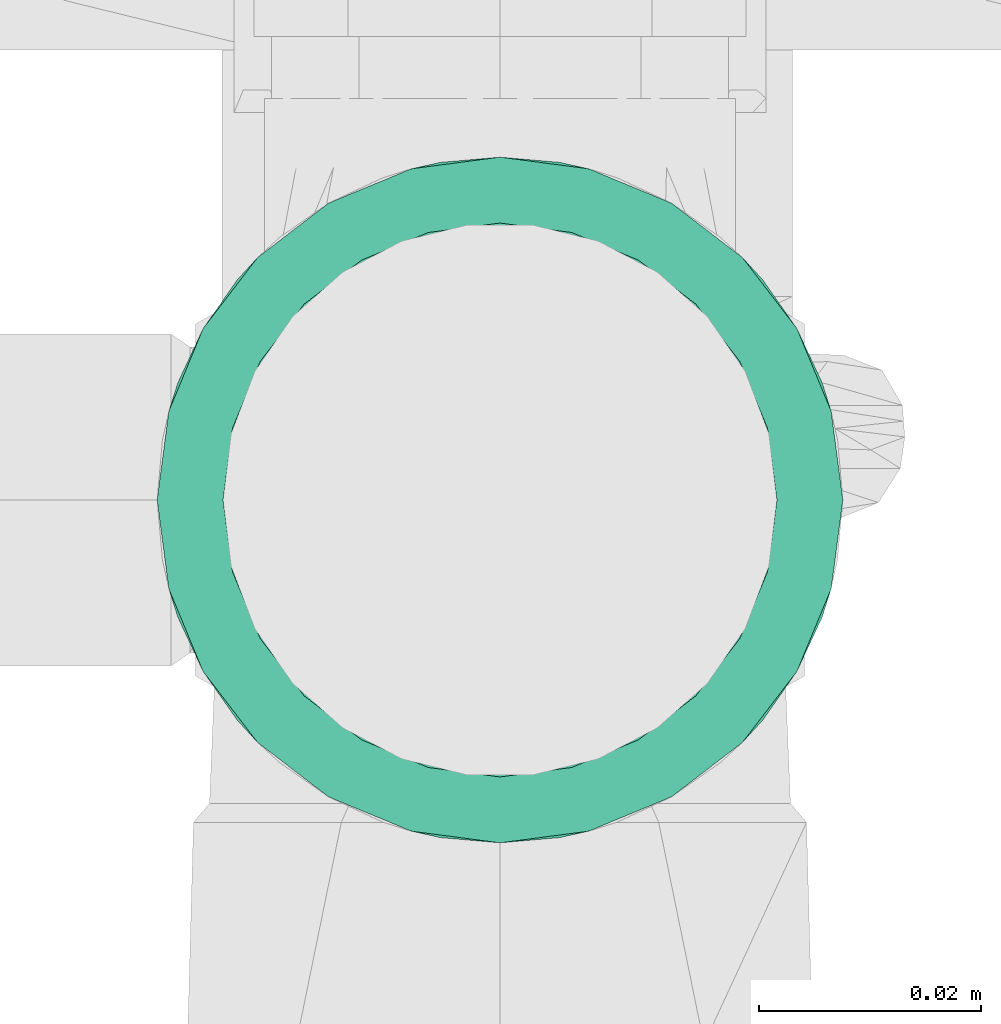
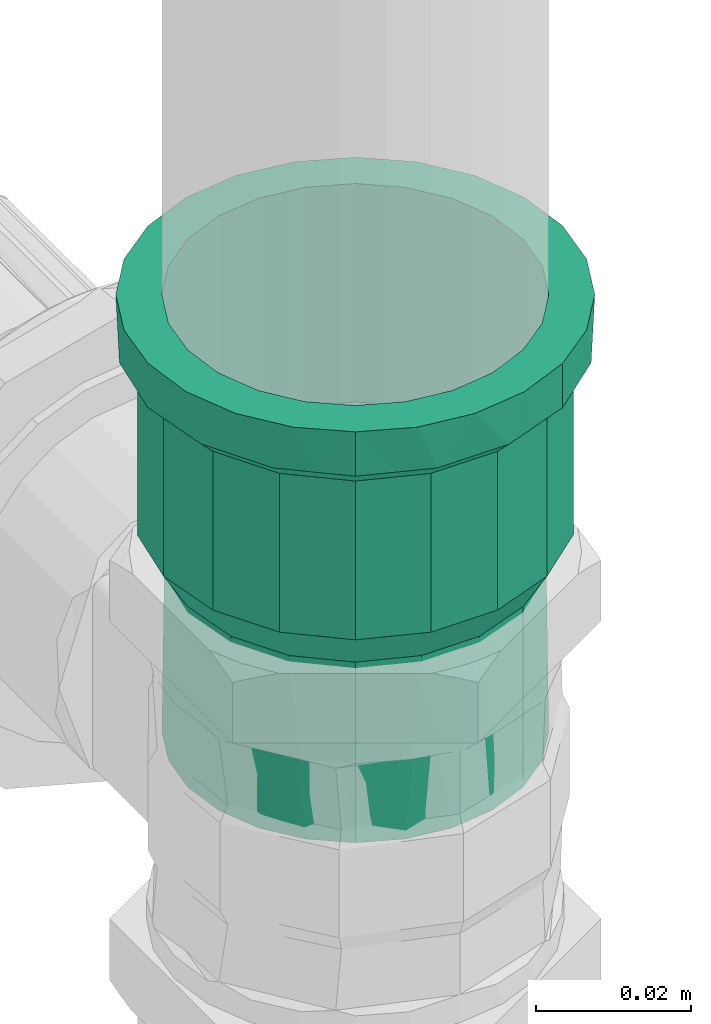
# One storey, part 206 of 589: 1 flow fitting.
"""IFC2X3 building model written with IfcOpenShell, lengths in millimetres."""

import ifcopenshell
import ifcopenshell.guid

model = None  # the IFC model being written
_history = None  # IfcOwnerHistory: only IFC2X3 demands one
_inside = {}  # id of a spatial element -> (the spatial element, [elements in it])
_under = {}  # id of a project, library or spatial element -> (it, [spatial elements below it])
_declared = {}  # id of a project -> (the project, [libraries it declares])
_typed = {}  # id of a type object -> (the type object, [elements of that type])
_made_of = {}  # id of a material, layer set ... -> (it, [elements and type objects made of it])


def new_model(schema):
    """Start an empty IFC model of exactly this schema.

    Asked for "IFC4X3", IfcOpenShell would pick the latest addendum, in which some entities
    have other attributes; the version numbers below select the first issue.
    IFC2X3 requires an IfcOwnerHistory on every rooted entity: one is made here for all.
    """
    global model, _history
    if schema == "IFC4X3":
        model = ifcopenshell.file(schema_version=(4, 3, 0, 0))
    else:
        model = ifcopenshell.file(schema=schema)
    _inside.clear()
    _under.clear()
    _declared.clear()
    _typed.clear()
    _made_of.clear()
    _history = None
    if model.schema == "IFC2X3":
        org = make("IfcOrganization", Name="unknown")
        user = make(
            "IfcPersonAndOrganization",
            ThePerson=make("IfcPerson", FamilyName="unknown"),
            TheOrganization=org,
        )
        app = make(
            "IfcApplication",
            ApplicationDeveloper=org,
            Version="unknown",
            ApplicationFullName="unknown",
            ApplicationIdentifier="unknown",
        )
        _history = make(
            "IfcOwnerHistory",
            OwningUser=user,
            OwningApplication=app,
            ChangeAction="ADDED",
            CreationDate=0,
        )
    return model


def make(cls, **values):
    """One entity of the class cls with the attributes given. An attribute that is None is left unset."""
    return model.create_entity(
        cls, **{name: value for name, value in values.items() if value is not None}
    )


def entity(cls, *values):
    """Any entity or typed value of the class cls, its attributes in the order of the schema. None: left unset."""
    e = model.create_entity(cls)
    for i, value in enumerate(values):
        if value is not None:
            e[i] = value
    return e


def rooted(cls, **values):
    """An entity with a GlobalId (a new one), such as an element, a storey or a relation."""
    return make(cls, GlobalId=ifcopenshell.guid.new(), OwnerHistory=_history, **values)


def si_unit(unit_type, name, prefix=None):
    """IfcSIUnit, for example si_unit("LENGTHUNIT", "METRE", prefix="MILLI")."""
    return make("IfcSIUnit", UnitType=unit_type, Prefix=prefix, Name=name)


def converted_unit(unit_type, name, factor, base, dimensions=None, offset=None):
    """IfcConversionBasedUnit, such as the inch: factor (a typed value) times the base unit."""
    return make(
        "IfcConversionBasedUnit"
        if offset is None
        else "IfcConversionBasedUnitWithOffset",
        ConversionOffset=offset,
        Dimensions=None
        if dimensions is None
        else entity("IfcDimensionalExponents", *dimensions),
        UnitType=unit_type,
        Name=name,
        ConversionFactor=make(
            "IfcMeasureWithUnit", ValueComponent=factor, UnitComponent=base
        ),
    )


def derived_unit(unit_type, elements):
    """IfcDerivedUnit: a product of units, each with its exponent."""
    return make(
        "IfcDerivedUnit",
        Elements=[
            make("IfcDerivedUnitElement", Unit=unit, Exponent=power)
            for unit, power in elements
        ],
        UnitType=unit_type,
    )


def assignment(units):
    """IfcUnitAssignment: the units of a project."""
    return None if units is None else make("IfcUnitAssignment", Units=units)


def point(xyz):
    """IfcCartesianPoint."""
    return None if xyz is None else make("IfcCartesianPoint", Coordinates=xyz)


def direction(xyz):
    """IfcDirection."""
    return None if xyz is None else make("IfcDirection", DirectionRatios=xyz)


def frame(location, z_axis=None, x_axis=None):
    """IfcAxis2Placement3D, a coordinate frame: its origin and axes. An axis left out is left unset."""
    return make(
        "IfcAxis2Placement3D",
        Location=point(location),
        Axis=direction(z_axis),
        RefDirection=direction(x_axis),
    )


def origin():
    """The frame at (0, 0, 0) with its axes left unset."""
    return frame((0.0, 0.0, 0.0))


def place(relative_to, where):
    """IfcLocalPlacement: puts the frame where relative to a parent placement (None: the world)."""
    return make(
        "IfcLocalPlacement", PlacementRelTo=relative_to, RelativePlacement=where
    )


def context(
    kind, dimensions, precision=None, world=None, true_north=None, identifier=None
):
    """IfcGeometricRepresentationContext, for example the 3D "Model" context."""
    return make(
        "IfcGeometricRepresentationContext",
        ContextIdentifier=identifier,
        ContextType=kind,
        CoordinateSpaceDimension=dimensions,
        Precision=precision,
        WorldCoordinateSystem=world,
        TrueNorth=true_north,
    )


def subcontext(parent, identifier, kind, view, scale=None):
    """IfcGeometricRepresentationSubContext, for example "Body" below "Model"."""
    return make(
        "IfcGeometricRepresentationSubContext",
        ContextIdentifier=identifier,
        ContextType=kind,
        ParentContext=parent,
        TargetScale=scale,
        TargetView=view,
    )


def project(units=None, contexts=None):
    """IfcProject with its units and contexts."""
    return rooted(
        "IfcProject",
        Name="project",
        RepresentationContexts=contexts,
        UnitsInContext=assignment(units),
    )


def spatial(cls, under=None, at=None, **own):
    """A site, building, storey or space (cls), placed at a placement, below another one or the project."""
    s = rooted(cls, ObjectPlacement=at, **own)
    if under is not None:
        _under.setdefault(under.id(), (under, []))[1].append(s)
    return s


def faces_of(points, faces, orient=None, outer=None):
    """IfcFace entities. A face is a list of loops; a loop is a list of indices into points, from 0.

    orient and outer hold one flag for each loop. By default every Orientation is true, the
    first loop of a face is its IfcFaceOuterBound and the others are IfcFaceBound.
    """
    made = []
    for i, loops in enumerate(faces):
        bounds = []
        for j, loop in enumerate(loops):
            is_outer = j == 0 if outer is None else outer[i][j]
            bounds.append(
                make(
                    "IfcFaceOuterBound" if is_outer else "IfcFaceBound",
                    Bound=make("IfcPolyLoop", Polygon=[points[k] for k in loop]),
                    Orientation=True if orient is None else orient[i][j],
                )
            )
        made.append(make("IfcFace", Bounds=bounds))
    return made


def faceted_brep(points, faces, orient=None, outer=None, voids=None):
    """IfcFacetedBrep: a solid bounded by flat faces; with voids (closed shells), ...WithVoids."""
    shared = [point(p) for p in points]
    hull = make("IfcClosedShell", CfsFaces=faces_of(shared, faces, orient, outer))
    if voids is None:
        return make("IfcFacetedBrep", Outer=hull)
    return make(
        "IfcFacetedBrepWithVoids",
        Outer=hull,
        Voids=[
            make(cls, CfsFaces=faces_of(shared, fs, o, b)) for cls, fs, o, b in voids
        ],
    )


def shape(context_of_items, identifier, shape_type, items):
    """IfcShapeRepresentation: the items that make up one representation, for example the "Body"."""
    return make(
        "IfcShapeRepresentation",
        ContextOfItems=context_of_items,
        RepresentationIdentifier=identifier,
        RepresentationType=shape_type,
        Items=items,
    )


def source(mapping_origin, context_of_items, identifier, shape_type, items):
    """IfcRepresentationMap: a shape defined once, which mapped items show again and again."""
    return make(
        "IfcRepresentationMap",
        MappingOrigin=mapping_origin,
        MappedRepresentation=shape(context_of_items, identifier, shape_type, items),
    )


def transform(
    local_origin,
    x_axis=None,
    y_axis=None,
    z_axis=None,
    scale=None,
    scale2=None,
    scale3=None,
    uniform=True,
):
    """IfcCartesianTransformationOperator3D, or its non-uniform kind. x_axis, y_axis, z_axis: its Axis1, 2, 3."""
    if uniform:
        return make(
            "IfcCartesianTransformationOperator3D",
            Axis1=direction(x_axis),
            Axis2=direction(y_axis),
            LocalOrigin=point(local_origin),
            Scale=scale,
            Axis3=direction(z_axis),
        )
    return make(
        "IfcCartesianTransformationOperator3DnonUniform",
        Axis1=direction(x_axis),
        Axis2=direction(y_axis),
        LocalOrigin=point(local_origin),
        Scale=scale,
        Axis3=direction(z_axis),
        Scale2=scale2,
        Scale3=scale3,
    )


def mapped(mapping_source, mapping_target):
    """IfcMappedItem: shows the shape of a source again, moved by a transform."""
    return make(
        "IfcMappedItem", MappingSource=mapping_source, MappingTarget=mapping_target
    )


def material(Name=None, Category=None):
    """IfcMaterial."""
    return make("IfcMaterial", Name=Name, Category=Category)


def made_of(thing, what):
    """Note that an element or type object is made of a material, layer set ...; save() writes the relation."""
    if what is not None:
        _made_of.setdefault(what.id(), (what, []))[1].append(thing)
    return thing


def type_object(cls, material=None, **own):
    """A type object (cls), such as IfcWallType, which elements share."""
    return made_of(rooted(cls, **own), material)


def type_shapes(of_type, sources):
    """Give a type object the sources (RepresentationMaps) that its elements show as mapped items."""
    of_type.RepresentationMaps = sources


def element(
    cls,
    number,
    at=None,
    inside=None,
    cuts=None,
    type_object=None,
    material=None,
    context=None,
    identifier="Body",
    shape_type=None,
    held_by="IfcProductDefinitionShape",
    body=None,
    shapes=None,
    **own,
):
    """One element of the class cls, such as IfcWall. Its Tag is "e" and its number.

    at: its placement. inside: the storey or other place that contains it. cuts: it is an
    opening in that element (IfcRelVoidsElement). A single representation is given by context,
    identifier, shape_type and body (its items); several are given by shapes. held_by: the class
    of the entity that holds the representations. save() writes the other relations.
    """
    e = rooted(cls, Tag="e%d" % number, ObjectPlacement=at, **own)
    if body is not None:
        shapes = [shape(context, identifier, shape_type, body)]
    if shapes is not None:
        e.Representation = make(held_by, Representations=shapes)
    if inside is not None:
        _inside.setdefault(inside.id(), (inside, []))[1].append(e)
    if cuts is not None:
        rooted(
            "IfcRelVoidsElement", RelatingBuildingElement=cuts, RelatedOpeningElement=e
        )
    if type_object is not None:
        _typed.setdefault(type_object.id(), (type_object, []))[1].append(e)
    return made_of(e, material)


def aggregate(whole, parts):
    """IfcRelAggregates: a whole, such as a stair, and the parts it consists of."""
    return rooted("IfcRelAggregates", RelatingObject=whole, RelatedObjects=parts)


def save(model, path):
    """Write the relations noted so far, then the file.

    IfcRelAggregates (storeys below a building ...), IfcRelContainedInSpatialStructure (elements
    in a storey), IfcRelDefinesByType, IfcRelAssociatesMaterial and IfcRelDeclares: one each for
    every whole, place, type object, material and project.
    """
    for whole, parts in _under.values():
        aggregate(whole, parts)
    for where, things in _inside.values():
        rooted(
            "IfcRelContainedInSpatialStructure",
            RelatedElements=things,
            RelatingStructure=where,
        )
    for kind, things in _typed.values():
        rooted("IfcRelDefinesByType", RelatedObjects=things, RelatingType=kind)
    for what, things in _made_of.values():
        rooted("IfcRelAssociatesMaterial", RelatedObjects=things, RelatingMaterial=what)
    for by, libraries in _declared.values():
        rooted("IfcRelDeclares", RelatingContext=by, RelatedDefinitions=libraries)
    model.write(path)


model = new_model("IFC2X3")

# Units and contexts
model_context = context("Model", 3, precision=0.01, world=origin(), true_north=direction((6.123031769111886e-17, 1.0)))
body_context = subcontext(model_context, "Body", "Model", "MODEL_VIEW")
ifc_project = project(units=[si_unit("LENGTHUNIT", "METRE", prefix="MILLI"), si_unit("AREAUNIT", "SQUARE_METRE"), si_unit("VOLUMEUNIT", "CUBIC_METRE"), converted_unit("PLANEANGLEUNIT", "DEGREE", entity("IfcRatioMeasure", 0.017453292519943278), si_unit("PLANEANGLEUNIT", "RADIAN"), dimensions=[0, 0, 0, 0, 0, 0, 0]), si_unit("MASSUNIT", "GRAM", prefix="KILO"), derived_unit("MASSDENSITYUNIT", [(si_unit("MASSUNIT", "GRAM", prefix="KILO"), 1), (si_unit("LENGTHUNIT", "METRE"), -3)]), derived_unit("IONCONCENTRATIONUNIT", [(si_unit("MASSUNIT", "GRAM", prefix="KILO"), 1), (si_unit("LENGTHUNIT", "METRE"), -3)]), derived_unit("MOMENTOFINERTIAUNIT", [(si_unit("LENGTHUNIT", "METRE"), 4)]), si_unit("TIMEUNIT", "SECOND"), si_unit("FREQUENCYUNIT", "HERTZ"), si_unit("THERMODYNAMICTEMPERATUREUNIT", "DEGREE_CELSIUS"), derived_unit("THERMALTRANSMITTANCEUNIT", [(si_unit("MASSUNIT", "GRAM", prefix="KILO"), 1), (si_unit("THERMODYNAMICTEMPERATUREUNIT", "KELVIN"), -1), (si_unit("TIMEUNIT", "SECOND"), -3)]), derived_unit("THERMALCONDUCTANCEUNIT", [(si_unit("MASSUNIT", "GRAM", prefix="KILO"), 1), (si_unit("THERMODYNAMICTEMPERATUREUNIT", "KELVIN"), -1), (si_unit("TIMEUNIT", "SECOND"), -3), (si_unit("LENGTHUNIT", "METRE"), 1)]), derived_unit("VOLUMETRICFLOWRATEUNIT", [(si_unit("LENGTHUNIT", "METRE"), 3), (si_unit("TIMEUNIT", "SECOND"), -1)]), derived_unit("MASSFLOWRATEUNIT", [(si_unit("MASSUNIT", "GRAM", prefix="KILO"), 1), (si_unit("TIMEUNIT", "SECOND"), -1)]), derived_unit("ROTATIONALFREQUENCYUNIT", [(si_unit("TIMEUNIT", "SECOND"), -1)]), si_unit("ELECTRICCURRENTUNIT", "AMPERE"), si_unit("ELECTRICVOLTAGEUNIT", "VOLT"), si_unit("POWERUNIT", "WATT"), si_unit("FORCEUNIT", "NEWTON", prefix="KILO"), si_unit("ILLUMINANCEUNIT", "LUX"), si_unit("LUMINOUSFLUXUNIT", "LUMEN"), si_unit("LUMINOUSINTENSITYUNIT", "CANDELA"), derived_unit("USERDEFINED", [(si_unit("MASSUNIT", "GRAM", prefix="KILO"), -1), (si_unit("LENGTHUNIT", "METRE"), -2), (si_unit("TIMEUNIT", "SECOND"), 3), (si_unit("LUMINOUSFLUXUNIT", "LUMEN"), 1)]), derived_unit("USERDEFINED", [(si_unit("MASSUNIT", "GRAM", prefix="KILO"), 1), (si_unit("TIMEUNIT", "SECOND"), -3), (si_unit("LENGTHUNIT", "METRE"), 3), (si_unit("ELECTRICCURRENTUNIT", "AMPERE"), -2)]), derived_unit("SOUNDPOWERUNIT", [(si_unit("MASSUNIT", "GRAM", prefix="KILO"), 1), (si_unit("TIMEUNIT", "SECOND"), -3), (si_unit("LENGTHUNIT", "METRE"), 2)]), derived_unit("SOUNDPRESSUREUNIT", [(si_unit("MASSUNIT", "GRAM", prefix="KILO"), 1), (si_unit("LENGTHUNIT", "METRE"), -1), (si_unit("TIMEUNIT", "SECOND"), -2)]), derived_unit("LINEARVELOCITYUNIT", [(si_unit("LENGTHUNIT", "METRE"), 1), (si_unit("TIMEUNIT", "SECOND"), -1)]), si_unit("PRESSUREUNIT", "PASCAL"), derived_unit("USERDEFINED", [(si_unit("MASSUNIT", "GRAM", prefix="KILO"), 1), (si_unit("LENGTHUNIT", "METRE"), -2), (si_unit("TIMEUNIT", "SECOND"), -2)]), derived_unit("LINEARFORCEUNIT", [(si_unit("MASSUNIT", "GRAM", prefix="KILO"), 1), (si_unit("TIMEUNIT", "SECOND"), -2)]), derived_unit("PLANARFORCEUNIT", [(si_unit("MASSUNIT", "GRAM", prefix="KILO"), 1), (si_unit("LENGTHUNIT", "METRE"), -1), (si_unit("TIMEUNIT", "SECOND"), -2)]), derived_unit("SPECIFICHEATCAPACITYUNIT", [(si_unit("THERMODYNAMICTEMPERATUREUNIT", "KELVIN"), -1), (si_unit("LENGTHUNIT", "METRE"), 2), (si_unit("TIMEUNIT", "SECOND"), -2)]), derived_unit("HEATINGVALUEUNIT", [(si_unit("LENGTHUNIT", "METRE"), 2), (si_unit("TIMEUNIT", "SECOND"), -2)]), derived_unit("VAPORPERMEABILITYUNIT", [(si_unit("LENGTHUNIT", "METRE"), -1), (si_unit("TIMEUNIT", "SECOND"), 1)]), derived_unit("DYNAMICVISCOSITYUNIT", [(si_unit("MASSUNIT", "GRAM", prefix="KILO"), 1), (si_unit("TIMEUNIT", "SECOND"), -1), (si_unit("LENGTHUNIT", "METRE"), -1)]), derived_unit("THERMALEXPANSIONCOEFFICIENTUNIT", [(si_unit("THERMODYNAMICTEMPERATUREUNIT", "KELVIN"), -1)]), derived_unit("MODULUSOFELASTICITYUNIT", [(si_unit("MASSUNIT", "GRAM", prefix="KILO"), 1), (si_unit("LENGTHUNIT", "METRE"), -1), (si_unit("TIMEUNIT", "SECOND"), -2)]), derived_unit("ISOTHERMALMOISTURECAPACITYUNIT", [(si_unit("LENGTHUNIT", "METRE"), 3), (si_unit("MASSUNIT", "GRAM", prefix="KILO"), -1)]), derived_unit("MOISTUREDIFFUSIVITYUNIT", [(si_unit("TIMEUNIT", "SECOND"), -1), (si_unit("LENGTHUNIT", "METRE"), 2)])], contexts=[model_context])

# Site, building, storey
site_placement = place(None, origin())
site = spatial("IfcSite", under=ifc_project, at=site_placement, Name="Default", CompositionType="ELEMENT")
building_placement = place(site_placement, origin())
building = spatial("IfcBuilding", under=site, at=building_placement, CompositionType="ELEMENT")
storey_placement = place(building_placement, frame((0.0, 0.0, 100.0)))
storey = spatial("IfcBuildingStorey", under=building, at=storey_placement, Name="TÉRREO", CompositionType="ELEMENT", Elevation=100.0)

# Flow fitting
ifc_material = material(Name="PVC Marrom")
pipe_fitting_type = type_object("IfcPipeFittingType", Name="PVC Marrom Soldável_Adaptador Curto com Bolsa e Rosca Aninhado_Rodrigo MEP:Adaptador", PredefinedType="NOTDEFINED", material=ifc_material)
shared_shape = source(origin(), body_context, "Body", "Brep", [
    faceted_brep([(0.0, 12.499999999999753, -21.65063509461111), (0.0, 21.884954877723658, -21.88495487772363), (0.0, 15.475000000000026, -26.803486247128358), (0.0, 17.677669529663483, -17.6776695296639), (0.0, 6.470476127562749, -24.14814565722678), (0.0, 26.803486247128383, -15.474999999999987), (0.0, 21.650635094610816, -12.500000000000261), (0.0, 24.148145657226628, -6.470476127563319), (0.0, 29.895404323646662, -8.01044944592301), (0.0, 25.0, 0.0), (0.0, 30.95, 0.0), (0.0, 24.14814565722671, 6.470476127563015), (0.0, 29.895404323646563, 8.010449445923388), (0.0, 21.65063509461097, 12.499999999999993), (0.0, 26.80348624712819, 15.475000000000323), (0.0, 17.6776695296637, 17.677669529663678), (0.0, 21.884954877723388, 21.884954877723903), (0.0, 12.500000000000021, 21.65063509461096), (0.0, 15.474999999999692, 26.803486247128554), (0.0, 6.4704761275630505, 24.1481456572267), (0.0, 8.010449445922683, 29.89540432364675), (0.0, 0.0, 25.0), (0.0, 0.0, 30.95), (0.0, -6.4704761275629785, 24.14814565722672), (0.0, -8.010449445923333, 29.895404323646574), (0.0, -12.49999999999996, 21.650635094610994), (0.0, -15.475000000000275, 26.803486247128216), (0.0, -17.677669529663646, 17.67766952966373), (0.0, -21.884954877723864, 21.884954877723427), (0.0, -21.65063509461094, 12.500000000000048), (0.0, -26.803486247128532, 15.474999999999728), (0.0, -29.89540432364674, 8.010449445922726), (0.0, -24.14814565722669, 6.4704761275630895), (0.0, -30.95, 0.0), (0.0, -25.0, 0.0), (0.0, -29.895404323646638, -8.010449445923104), (0.0, -24.148145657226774, -6.470476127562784), (0.0, -26.803486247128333, -15.475000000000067), (0.0, -21.6506350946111, -12.499999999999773), (0.0, -21.884954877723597, -21.884954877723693), (0.0, -17.677669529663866, -17.67766952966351), (0.0, -15.474999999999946, -26.803486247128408), (0.0, -12.500000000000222, -21.650635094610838), (0.0, -8.010449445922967, -29.895404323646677), (0.0, -6.470476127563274, -24.148145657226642), (0.0, 0.0, -30.95), (0.0, 0.0, -25.0), (0.0, 8.010449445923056, -29.895404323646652), (7.0, -30.016595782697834, 5.29316701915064), (7.0, -29.88065133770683, 6.064083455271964), (7.0, -29.083191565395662, 10.586334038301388), (7.0, -23.70796650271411, 19.895598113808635), (7.0, -19.590362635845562, 23.350189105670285), (7.0, -26.395579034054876, 15.24096607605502), (7.0, -5.3710129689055, 30.480398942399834), (7.0, -10.421885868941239, 28.6425895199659), (7.0, -30.95, 0.0), (7.0, -15.472758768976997, 26.804780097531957), (7.0, 10.42907040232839, 28.639974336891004), (7.0, 15.479482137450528, 26.80089798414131), (7.0, 5.37865866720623, 30.479050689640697), (7.0, 19.596219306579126, 23.345274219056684), (7.0, 23.712956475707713, 19.889650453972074), (7.0, 29.08584618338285, 10.57903832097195), (7.0, 30.95, 0.0), (7.0, 26.39940132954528, 15.234344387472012), (7.0, 0.0038228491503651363, 30.47972481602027), (7.0, 29.08584618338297, -10.579038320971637), (7.0, 23.71295647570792, -19.88965045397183), (7.0, 19.596219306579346, -23.3452742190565), (7.0, 26.39940132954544, -15.234344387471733), (7.0, 5.378658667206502, -30.47905068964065), (7.0, 10.429070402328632, -28.639974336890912), (7.0, 15.47948213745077, -26.800897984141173), (7.0, -30.0165957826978, -5.2931670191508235), (7.0, -10.421885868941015, -28.642589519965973), (7.0, -15.472758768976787, -26.804780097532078), (7.0, -5.3710129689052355, -30.480398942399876), (7.0, -19.590362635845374, -23.350189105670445), (7.0, -23.707966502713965, -19.895598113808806), (7.0, -29.083191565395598, -10.58633403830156), (7.0, -29.88065131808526, -6.064083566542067), (7.0, -26.395579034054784, -15.240966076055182), (7.0, 0.003822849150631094, -30.479724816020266), (9.400000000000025, -26.87493630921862, 9.782525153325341), (9.400000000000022, -27.737468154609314, 4.891262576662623), (34.4499999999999, -26.875116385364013, 9.782030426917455), (9.40000000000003, -18.102887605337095, 21.577234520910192), (34.4499999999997, -14.299296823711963, 24.768732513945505), (9.400000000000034, -14.297928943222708, 24.769522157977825), (9.400000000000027, -24.391391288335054, 14.083736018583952), (34.44999999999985, -24.391819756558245, 14.083085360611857), (34.4499999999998, -21.908523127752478, 18.384140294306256), (34.44999999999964, -4.965271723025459, 28.165689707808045), (9.400000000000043, -4.963197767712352, 28.16605524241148), (9.400000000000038, -9.63056335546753, 26.467788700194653), (9.400000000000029, -21.907846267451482, 18.384946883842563), (9.40000000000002, -28.600000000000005, 0.0), (34.44999999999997, -27.796398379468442, 4.557325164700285), (34.44999999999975, -18.103909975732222, 21.57643640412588), (34.44999999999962, 4.967670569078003, 28.165266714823), (9.400000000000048, 0.003532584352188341, 28.165432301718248), (34.44999999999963, 0.0011994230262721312, 28.165478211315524), (34.44999999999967, -9.632284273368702, 26.46721111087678), (9.400000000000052, 4.970262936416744, 28.164809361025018), (9.400000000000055, 9.63720237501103, 26.465372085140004), (34.449999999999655, 14.301406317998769, 24.76751455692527), (9.40000000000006, 14.304141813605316, 24.765934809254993), (34.449999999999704, 18.105747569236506, 21.574894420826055), (34.44999999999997, -27.73755819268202, 4.891015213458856), (34.449999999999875, 26.875949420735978, 9.779741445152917), (34.450000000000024, 28.600000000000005, 0.0), (9.400000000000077, 26.87738936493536, 9.77578339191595), (34.449999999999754, 21.910088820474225, 18.38227428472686), (9.40000000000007, 21.91245735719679, 18.379450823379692), (9.400000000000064, 18.108299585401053, 21.57269281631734), (34.44999999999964, 9.634538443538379, 26.46639063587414), (9.400000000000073, 24.394923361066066, 14.077617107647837), (34.450000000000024, -28.600000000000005, 0.0), (9.40000000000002, 28.600000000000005, 0.0), (34.44999999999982, 24.3930191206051, 14.081007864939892), (9.40000000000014, 26.87738936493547, -9.77578339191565), (34.45000000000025, 26.87594942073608, -9.77974144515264), (9.400000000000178, -18.10288760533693, -21.577234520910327), (34.45000000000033, -14.299296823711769, -24.76873251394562), (34.45000000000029, -18.10390997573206, -21.57643640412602), (9.400000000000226, 18.108299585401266, -21.57269281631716), (9.400000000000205, 21.912457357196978, -18.37945082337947), (34.450000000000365, 21.910088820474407, -18.38227428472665), (9.400000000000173, 24.394923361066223, -14.077617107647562), (34.45000000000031, 24.393019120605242, -14.081007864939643), (9.40000000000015, -21.907846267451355, -18.384946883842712), (34.45000000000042, 0.0011994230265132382, -28.165478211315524), (9.400000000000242, -4.963197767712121, -28.166055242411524), (9.40000000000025, 0.0035325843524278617, -28.165432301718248), (9.40000000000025, 9.637202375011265, -26.46537208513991), (9.400000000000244, 14.304141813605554, -24.765934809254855), (34.45000000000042, 14.301406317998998, -24.76751455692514), (9.400000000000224, -9.63056335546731, -26.467788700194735), (34.45000000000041, -4.965271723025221, -28.165689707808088), (34.45000000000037, -9.632284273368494, -26.467211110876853), (34.45000000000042, 9.634538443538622, -26.46639063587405), (9.400000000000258, 4.970262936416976, -28.164809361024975), (9.400000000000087, -26.874936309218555, -9.782525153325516), (9.40000000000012, -24.391391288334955, -14.083736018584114), (34.45000000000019, -24.391819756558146, -14.083085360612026), (34.450000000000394, 18.1057475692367, -21.574894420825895), (34.450000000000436, 4.967670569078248, -28.16526671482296), (34.45000000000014, -26.875116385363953, -9.782030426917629), (34.45000000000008, -27.796398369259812, -4.557325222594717), (9.400000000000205, -14.297928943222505, -24.769522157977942), (9.400000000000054, -27.737468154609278, -4.891262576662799), (34.450000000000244, -21.908523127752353, -18.38414029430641), (34.45000000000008, -27.737558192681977, -4.891015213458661), (69.0, 6.4704761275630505, -24.1481456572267), (69.0, 12.500000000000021, -21.65063509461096), (69.0, 17.6776695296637, -17.677669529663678), (69.0, 21.650635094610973, -12.499999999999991), (69.0, 24.14814565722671, -6.470476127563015), (69.0, 25.0, 0.0), (69.0, 24.148145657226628, 6.470476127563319), (69.0, 21.650635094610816, 12.500000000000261), (69.0, 17.677669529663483, 17.6776695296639), (69.0, 12.499999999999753, 21.65063509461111), (69.0, 6.470476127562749, 24.14814565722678), (69.0, 0.0, 25.0), (69.0, -6.470476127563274, 24.148145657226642), (69.0, -12.500000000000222, 21.650635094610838), (69.0, -17.67766952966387, 17.677669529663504), (69.0, -21.650635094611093, 12.499999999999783), (69.0, -24.148145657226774, 6.470476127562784), (69.0, -25.0, 0.0), (69.0, -24.14814565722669, -6.4704761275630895), (69.0, -21.650635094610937, -12.500000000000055), (69.0, -17.677669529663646, -17.67766952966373), (69.0, -12.49999999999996, -21.650635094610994), (69.0, -6.4704761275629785, -24.14814565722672), (69.0, 0.0, -25.0), (40.499999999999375, -8.41832461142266, 23.136178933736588), (40.49999999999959, -19.1502152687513, 16.070757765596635), (40.49999999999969, -21.321146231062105, 12.310958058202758), (40.49999999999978, -23.492077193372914, 8.551158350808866), (40.49999999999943, -12.498189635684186, 21.651680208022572), (40.49999999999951, -15.824202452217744, 18.861218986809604), (40.49999999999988, -24.246038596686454, 4.2755791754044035), (40.49999999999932, -4.3384595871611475, 24.620677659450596), (40.499999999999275, 4.344635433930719, 24.61958860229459), (40.499999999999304, 0.003087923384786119, 24.620133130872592), (40.49999999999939, 15.828933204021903, 18.85724896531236), (40.49999999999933, 12.503620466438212, 21.648544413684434), (40.49999999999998, -25.0, 0.0), (40.49999999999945, 19.154245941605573, 16.065953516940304), (40.49999999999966, 23.494221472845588, 8.545265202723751), (40.499999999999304, 8.424127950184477, 23.13406650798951), (40.49999999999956, 21.324233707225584, 12.305609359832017), (40.49999999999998, 25.0, 0.0), (40.500000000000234, 19.15424594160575, -16.065953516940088), (40.500000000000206, -15.824202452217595, -18.861218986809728), (40.50000000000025, -12.498189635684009, -21.65168020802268), (40.500000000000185, 21.32423370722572, -12.305609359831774), (40.50000000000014, 23.494221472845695, -8.545265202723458), (40.5000000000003, 12.503620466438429, -21.64854441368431), (40.50000000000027, 15.82893320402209, -18.8572489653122), (40.50000000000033, 4.344635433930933, -24.619588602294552), (40.50000000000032, 8.42412795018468, -23.13406650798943), (40.5000000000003, -4.3384595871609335, -24.62067765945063), (40.50000000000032, 0.00308792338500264, -24.620133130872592), (40.50000000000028, -8.41832461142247, -23.136178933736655), (40.50000000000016, -19.150215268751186, -16.070757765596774), (40.50000000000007, -23.49207719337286, -8.551158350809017), (40.500000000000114, -21.321146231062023, -12.31095805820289), (40.50000000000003, -24.246038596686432, -4.275579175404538), (9.40000000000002, -25.0, 0.0), (34.450000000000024, -25.0, 0.0), (34.450000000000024, -24.14814565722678, -6.470476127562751), (9.40000000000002, -24.14814565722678, -6.470476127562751), (7.0, -24.14814565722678, -6.470476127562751), (7.0, -25.0, 0.0), (34.450000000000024, -21.650635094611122, -12.499999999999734), (9.40000000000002, -21.650635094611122, -12.499999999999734), (7.0, -21.650635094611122, -12.499999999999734), (9.40000000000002, -12.500000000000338, -21.65063509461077), (7.0, -12.500000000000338, -21.65063509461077), (7.0, -17.677669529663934, -17.677669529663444), (9.40000000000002, -17.677669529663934, -17.677669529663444), (34.450000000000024, -17.677669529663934, -17.677669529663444), (34.450000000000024, -12.500000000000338, -21.65063509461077), (9.40000000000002, -6.470476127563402, -24.148145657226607), (7.0, -6.470476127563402, -24.148145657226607), (34.450000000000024, -6.470476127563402, -24.148145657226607), (34.450000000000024, 0.0, -25.0), (9.40000000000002, 0.0, -25.0), (7.0, 0.0, -25.0), (34.450000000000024, 6.470476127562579, -24.148145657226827), (9.40000000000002, 6.470476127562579, -24.148145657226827), (7.0, 6.470476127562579, -24.148145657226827), (34.450000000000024, 12.49999999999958, -21.65063509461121), (9.40000000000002, 12.49999999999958, -21.65063509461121), (7.0, 12.49999999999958, -21.65063509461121), (34.450000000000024, 24.148145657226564, -6.470476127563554), (34.450000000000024, 25.0, 0.0), (9.40000000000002, 25.0, 0.0), (7.0, 25.0, 0.0), (7.0, 24.14814565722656, -6.470476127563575), (9.40000000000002, 24.148145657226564, -6.470476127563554), (34.450000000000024, 17.677669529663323, -17.677669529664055), (9.40000000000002, 17.677669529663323, -17.677669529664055), (7.0, 17.677669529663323, -17.677669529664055), (34.450000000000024, 21.650635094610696, -12.500000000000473), (9.40000000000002, 21.650635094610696, -12.500000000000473), (7.0, 21.650635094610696, -12.500000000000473), (34.450000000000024, 24.148145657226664, 6.470476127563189), (9.40000000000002, 24.148145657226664, 6.470476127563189), (7.0, 24.148145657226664, 6.470476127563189), (34.450000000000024, 21.65063509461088, 12.50000000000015), (9.40000000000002, 21.65063509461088, 12.50000000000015), (7.0, 21.65063509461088, 12.50000000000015), (9.40000000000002, 12.49999999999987, 21.650635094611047), (7.0, 12.49999999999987, 21.650635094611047), (7.0, 17.677669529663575, 17.677669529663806), (9.40000000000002, 17.677669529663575, 17.677669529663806), (34.450000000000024, 17.677669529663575, 17.677669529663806), (34.450000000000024, 12.49999999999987, 21.650635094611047), (9.40000000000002, 6.470476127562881, 24.14814565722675), (7.0, 6.470476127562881, 24.14814565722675), (34.450000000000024, 6.470476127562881, 24.14814565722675), (34.450000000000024, 0.0, 25.0), (9.40000000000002, 0.0, 25.0), (7.0, 0.0, 25.0), (9.40000000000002, -17.677669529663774, 17.677669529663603), (7.0, -17.677669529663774, 17.677669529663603), (7.0, -12.50000000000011, 21.650635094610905), (9.40000000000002, -12.50000000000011, 21.650635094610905), (34.450000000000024, -12.50000000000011, 21.650635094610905), (34.450000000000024, -17.677669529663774, 17.677669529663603), (9.40000000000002, -24.14814565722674, 6.470476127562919), (7.0, -24.14814565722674, 6.470476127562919), (7.0, -21.650635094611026, 12.499999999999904), (9.40000000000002, -21.650635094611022, 12.499999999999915), (34.450000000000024, -21.650635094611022, 12.499999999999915), (34.450000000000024, -24.14814565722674, 6.470476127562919), (7.0, -6.470476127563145, 24.148145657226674), (9.40000000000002, -6.470476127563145, 24.148145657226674), (34.450000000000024, -6.470476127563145, 24.148145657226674)], [[[0, 1, 2]], [[3, 1, 0]], [[4, 0, 2]], [[1, 3, 5]], [[5, 3, 6]], [[5, 6, 7]], [[8, 5, 7]], [[9, 8, 7]], [[10, 8, 9]], [[10, 9, 11]], [[12, 10, 11]], [[12, 11, 13]], [[14, 12, 13]], [[14, 13, 15]], [[15, 16, 14]], [[15, 17, 16]], [[18, 16, 17]], [[19, 18, 17]], [[18, 19, 20]], [[21, 20, 19]], [[22, 20, 21]], [[21, 23, 22]], [[24, 22, 23]], [[25, 24, 23]], [[24, 25, 26]], [[25, 27, 26]], [[27, 28, 26]], [[28, 27, 29]], [[28, 29, 30]], [[30, 29, 31]], [[31, 29, 32]], [[33, 31, 32]], [[32, 34, 33]], [[33, 34, 35]], [[34, 36, 35]], [[37, 35, 36]], [[37, 36, 38]], [[39, 37, 38]], [[40, 39, 38]], [[40, 41, 39]], [[42, 41, 40]], [[43, 41, 42]], [[42, 44, 43]], [[43, 44, 45]], [[44, 46, 45]], [[46, 4, 47]], [[45, 46, 47]], [[2, 47, 4]], [[31, 48, 49, 50]], [[28, 51, 52]], [[51, 30, 50, 53]], [[54, 24, 55]], [[30, 31, 50]], [[56, 48, 33]], [[52, 57, 26]], [[52, 26, 28]], [[30, 51, 28]], [[58, 59, 18]], [[58, 18, 20]], [[26, 57, 55]], [[26, 55, 24]], [[22, 24, 54]], [[33, 48, 31]], [[20, 60, 58]], [[16, 61, 62]], [[12, 63, 64]], [[63, 14, 62, 65]], [[12, 64, 10]], [[18, 61, 16]], [[22, 54, 66, 60]], [[22, 60, 20]], [[14, 16, 62]], [[59, 61, 18]], [[14, 63, 12]], [[8, 64, 67]], [[1, 68, 69]], [[68, 5, 67, 70]], [[71, 47, 72]], [[5, 8, 67]], [[8, 10, 64]], [[2, 72, 47]], [[69, 73, 2]], [[5, 68, 1]], [[74, 33, 35]], [[75, 76, 41]], [[2, 73, 72]], [[75, 41, 43]], [[45, 47, 71]], [[69, 2, 1]], [[43, 77, 75]], [[39, 78, 79]], [[35, 80, 81, 74]], [[80, 37, 79, 82]], [[37, 80, 35]], [[41, 78, 39]], [[45, 71, 83, 77]], [[45, 77, 43]], [[37, 39, 79]], [[76, 78, 41]], [[74, 56, 33]], [[84, 85, 86]], [[87, 88, 89]], [[90, 91, 92]], [[93, 94, 95]], [[92, 96, 90]], [[85, 97, 98]], [[99, 87, 96]], [[91, 84, 86]], [[100, 101, 102]], [[93, 95, 103]], [[89, 103, 95]], [[84, 91, 90]], [[100, 104, 101]], [[88, 87, 99]], [[105, 106, 107]], [[108, 107, 106]], [[85, 98, 109, 86]], [[102, 94, 93]], [[110, 111, 112]], [[113, 114, 115]], [[116, 104, 100]], [[112, 117, 110]], [[113, 115, 108]], [[104, 116, 105]], [[97, 118, 98]], [[115, 107, 108]], [[119, 112, 111]], [[99, 96, 92]], [[117, 114, 120]], [[110, 117, 120]], [[103, 89, 88]], [[102, 101, 94]], [[120, 114, 113]], [[106, 105, 116]], [[121, 111, 122]], [[123, 124, 125]], [[126, 127, 128]], [[129, 122, 130]], [[125, 131, 123]], [[129, 121, 122]], [[132, 133, 134]], [[135, 136, 137]], [[138, 139, 140]], [[119, 111, 121]], [[130, 127, 129]], [[141, 142, 135]], [[143, 144, 145]], [[126, 128, 146]], [[134, 147, 132]], [[135, 137, 141]], [[132, 139, 133]], [[138, 133, 139]], [[137, 136, 146]], [[143, 145, 148]], [[147, 142, 141]], [[149, 118, 97]], [[123, 150, 124]], [[124, 150, 140]], [[148, 151, 143]], [[146, 136, 126]], [[152, 144, 131]], [[151, 148, 153, 149]], [[144, 152, 145]], [[152, 131, 125]], [[142, 147, 134]], [[149, 97, 151]], [[128, 127, 130]], [[140, 150, 138]], [[154, 155, 156, 157, 158, 159, 160, 161, 162, 163, 164, 165, 166, 167, 168, 169, 170, 171, 172, 173, 174, 175, 176, 177]], [[178, 167, 166]], [[169, 168, 179]], [[169, 179, 180, 181]], [[182, 183, 167]], [[170, 181, 184]], [[166, 185, 178]], [[179, 168, 183]], [[165, 186, 187, 185]], [[165, 185, 166]], [[167, 183, 168]], [[188, 189, 163]], [[184, 171, 170]], [[184, 190, 171]], [[161, 191, 162]], [[169, 181, 170]], [[161, 160, 192]], [[163, 193, 164]], [[161, 192, 194, 191]], [[195, 160, 159]], [[164, 193, 186]], [[186, 165, 164]], [[189, 193, 163]], [[188, 163, 162]], [[162, 191, 188]], [[160, 195, 192]], [[178, 182, 167]], [[195, 159, 158]], [[157, 156, 196]], [[197, 198, 175]], [[157, 196, 199, 200]], [[201, 202, 155]], [[200, 195, 158]], [[154, 203, 204]], [[196, 156, 202]], [[177, 205, 206, 203]], [[197, 175, 174]], [[155, 202, 156]], [[204, 201, 155]], [[175, 198, 207]], [[157, 200, 158]], [[204, 155, 154]], [[173, 208, 174]], [[173, 172, 209]], [[173, 209, 210, 208]], [[171, 190, 211]], [[205, 177, 176]], [[207, 205, 176]], [[175, 207, 176]], [[174, 208, 197]], [[211, 209, 172]], [[171, 211, 172]], [[177, 203, 154]], [[212, 213, 214, 215, 216, 36, 34, 217]], [[215, 214, 218, 219, 220, 38, 36, 216]], [[221, 222, 42, 40, 223, 224, 225, 226]], [[225, 224, 223, 40, 38, 220, 219, 218]], [[227, 228, 44, 42, 222, 221, 226, 229]], [[227, 229, 230, 231, 232, 46, 44, 228]], [[231, 230, 233, 234, 235, 4, 46, 232]], [[234, 233, 236, 237, 238, 0, 4, 235]], [[239, 240, 241, 242, 9, 7, 243, 244]], [[237, 236, 245, 246, 247, 3, 0, 238]], [[245, 248, 249, 250, 6, 3, 247, 246]], [[248, 239, 244, 243, 7, 6, 250, 249]], [[241, 240, 251, 252, 253, 11, 9, 242]], [[252, 251, 254, 255, 256, 13, 11, 253]], [[257, 258, 17, 15, 259, 260, 261, 262]], [[261, 260, 259, 15, 13, 256, 255, 254]], [[263, 264, 19, 17, 258, 257, 262, 265]], [[263, 265, 266, 267, 268, 21, 19, 264]], [[269, 270, 27, 25, 271, 272, 273, 274]], [[275, 276, 32, 29, 277, 278, 279, 280]], [[274, 279, 278, 277, 29, 27, 270, 269]], [[212, 217, 34, 32, 276, 275, 280, 213]], [[273, 272, 271, 25, 23, 281, 282, 283]], [[267, 266, 283, 282, 281, 23, 21, 268]], [[64, 119, 121, 67]], [[81, 80, 143, 151, 97, 56, 74]], [[73, 136, 135, 142, 71, 72]], [[71, 142, 134, 133, 77, 83]], [[73, 69, 68, 127, 126, 136]], [[127, 68, 70, 67, 121, 129]], [[77, 133, 138, 150, 76, 75]], [[143, 80, 82, 79, 131, 144]], [[78, 76, 150, 123, 131, 79]], [[84, 50, 49, 48, 56, 97, 85]], [[53, 50, 84, 90, 96, 51]], [[52, 51, 96, 87, 89, 57]], [[89, 95, 94, 54, 55, 57]], [[101, 104, 60, 66, 54, 94]], [[105, 107, 59, 58, 60, 104]], [[112, 119, 64, 63]], [[114, 117, 112, 63, 65, 62]], [[107, 115, 114, 62, 61, 59]], [[233, 230, 229, 226, 225, 218, 214, 213, 280, 279, 274, 273, 283, 266, 265, 262, 261, 254, 251, 240, 239, 248, 245, 236]], [[190, 109, 98, 118]], [[184, 86, 109]], [[181, 86, 184]], [[185, 93, 178]], [[103, 88, 182]], [[99, 92, 179]], [[182, 88, 183]], [[91, 86, 181]], [[103, 182, 178]], [[178, 93, 103]], [[102, 185, 187]], [[180, 92, 91]], [[187, 100, 102]], [[91, 181, 180]], [[183, 88, 99]], [[99, 179, 183]], [[187, 186, 100]], [[191, 113, 188]], [[116, 100, 186]], [[179, 92, 180]], [[93, 185, 102]], [[189, 106, 193]], [[192, 195, 111]], [[120, 113, 191]], [[192, 110, 194]], [[108, 106, 189]], [[120, 191, 194]], [[194, 110, 120]], [[109, 190, 184]], [[188, 113, 108]], [[192, 111, 110]], [[108, 189, 188]], [[193, 106, 116]], [[116, 186, 193]], [[195, 200, 111]], [[203, 141, 204]], [[201, 146, 202]], [[196, 130, 199]], [[203, 147, 141]], [[201, 137, 146]], [[205, 132, 206]], [[196, 128, 130]], [[202, 128, 196]], [[111, 200, 122]], [[199, 130, 122]], [[146, 128, 202]], [[207, 139, 205]], [[206, 147, 203]], [[204, 141, 137]], [[199, 122, 200]], [[205, 139, 132]], [[204, 137, 201]], [[198, 124, 140]], [[198, 140, 207]], [[190, 153, 211]], [[209, 145, 210]], [[190, 118, 149, 153]], [[209, 148, 145]], [[208, 125, 197]], [[208, 152, 125]], [[210, 152, 208]], [[139, 207, 140]], [[125, 124, 197]], [[210, 145, 152]], [[211, 153, 148]], [[197, 124, 198]], [[206, 132, 147]], [[211, 148, 209]]]),
])
type_shapes(pipe_fitting_type, [shared_shape])
flow_fitting_placement = place(storey_placement, frame((10616.154026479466, -477.4611721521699, 2275.0), z_axis=(0.0, 1.0, 0.0), x_axis=(0.0, 0.0, -1.0)))
element("IfcFlowFitting", 1, at=flow_fitting_placement, inside=storey, type_object=pipe_fitting_type, material=ifc_material, Name="PVC Marrom Soldável_Adaptador Curto com Bolsa e Rosca Aninhado_Rodrigo MEP:Adaptador", ObjectType="PVC Marrom Soldável_Adaptador Curto com Bolsa e Rosca Aninhado_Rodrigo MEP:Adaptador", context=body_context, shape_type="MappedRepresentation", body=[
    mapped(shared_shape, transform((0.0, 0.0, 0.0), scale=1.0)),
])

save(model, "model.ifc")
